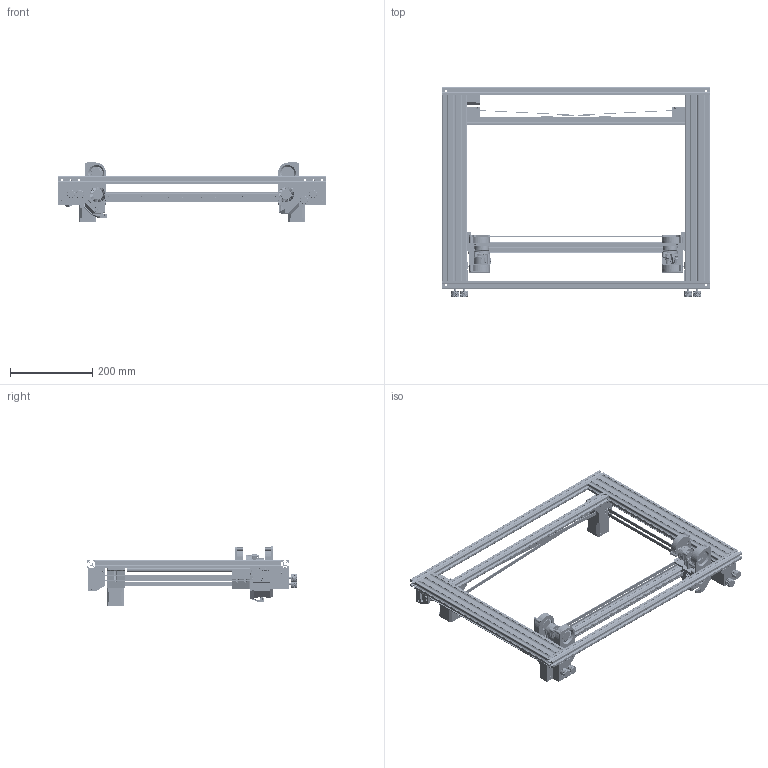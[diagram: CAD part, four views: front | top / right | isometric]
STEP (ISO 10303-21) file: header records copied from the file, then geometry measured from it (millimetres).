
FILE_DESCRIPTION(/* description */ (''),/* implementation_level */ '2;1');
FILE_NAME(/* name */ 'test3-01-00 - XY portal.stp',/* time_stamp */ '2024-03-13T18:01:03+03:00',/* author */ (''),/* organization */ (''),/* preprocessor_version */ 'ST-DEVELOPER v20',/* originating_system */ 'SIEMENS PLM Software NX2312.4001',/* authorisation */ '');
FILE_SCHEMA (('AUTOMOTIVE_DESIGN { 1 0 10303 214 3 1 1 1 }'));
Products named in the file (127): MF3-02 - Minifeeder 3 front; MF3-03 - Minifeeder 3 lever; MF3-01 - Minifeeder 3 back; Fitting; MF2-03 - Minifeeder 2 lever; MF2-02 - Minifeeder 2 front; MF2-01 - Minifeeder 2 back; BMG spring; MF-01 - Minifeeder back; MF-02b - Minifeeder front lite; MF-01b - Minifeeder back lite; MF-03 - Minifeeder lever; MF-02 - Minifeeder front; Screw round M3x12; Screw round M3x10; BMG stift 19mm; BMG motor gear; BMG bearing; BMG small gear; Washer M3; Bearing 623; Bearing F623; V08-01-01-05-02 - LPH nozzle cleaner body; V08-01-01-05-01 - silicone lamella; Screw round M3x8; V08-01-01-04-05(R) - LPH back fan mount; V08-01-01-04-04(R) - LPH volcano front panel; V08-01-01-04-03(R) - LPH volcano dual 5015 fan duct; V07-01-01-04-01(R) - Lite print head mount; LPH tube; V08-01-01-04-08 - LPH volcano front panel logo; Sock volcano; Screw flat M3x18; Threaded insert M3x5; Threaded insert M3x3; V08-01-01-04-05 - LPH back fan mount; V08-01-01-04-04 - LPH volcano front panel; Screw flat M3x16; V08-01-01-04-03 - LPH volcano dual 5015 fan duct; Heatblock + nozzle E3D Volcano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
Assembly tree (316 placements, depth 6):
  V08-01-00 - XY portal
    T2060 L450  x2
    T2020 L650  x2
    T2020 L530
    V08-01-04-00 - Left belt tensioner
      V08-01-04-01 - Left belt tensioner base
      V08-01-04-02-00 - Belt tensioner (roller)
        V08-01-04-02-01 - Belt tensioner (roller) body
        Roller
          Bearing F623  x2
          Bearing 623
          Washer M3
        V05-01-04-02-02 - Belt tensioner knob
        Screw hex M5x50
        Nut M5
        Screw flat M3x20
        V07-01-04-02-03 - Belt tensioner knob cap
      Screw round M4x8  x3
      V08-01-04-04 - Belt tensioner belt clamp
      V08-01-04-05 - Belt tensioner plunger
      Nut M3
      Screw flat M3x35
      V08-01-04-03-00 - Belt tensioner (0.5XY)_MODEL
        V08-01-04-03-01 - Belt tensioner (0.5XY) body
        V08-01-04-03-02 - Belt tensioner (0.5XY) plunger
        V08-01-04-03-03 - Belt tensioner (0.5XY) clamp
        Nut M3
        Screw round M3x30
        Nut M5
        Screw hex M5x50
        V05-01-04-02-02 - Belt tensioner knob
        V07-01-04-02-03 - Belt tensioner knob cap
    V08-01-05-00 - Right belt tensioner
      V08-01-05-01 - Right belt tensioner base
      V08-01-04-02-00 - Belt tensioner (roller)
        V08-01-04-02-01 - Belt tensioner (roller) body
        Roller
          Bearing F623  x2
          Bearing 623
          Washer M3
        V05-01-04-02-02 - Belt tensioner knob
        Screw hex M5x50
        Nut M5
        Screw flat M3x20
        V07-01-04-02-03 - Belt tensioner knob cap
      Screw round M4x8  x3
      Nut M3
      V08-01-04-05 - Belt tensioner plunger
      V08-01-04-04 - Belt tensioner belt clamp
      Screw flat M3x35
      V08-01-04-03-00 - Belt tensioner (0.5XY)_MODEL
        V08-01-04-03-01 - Belt tensioner (0.5XY) body
        V08-01-04-03-02 - Belt tensioner (0.5XY) plunger
        V08-01-04-03-03 - Belt tensioner (0.5XY) clamp
        Nut M3
        Screw round M3x30
        Nut M5
        Screw hex M5x50
        V05-01-04-02-02 - Belt tensioner knob
        V07-01-04-02-03 - Belt tensioner knob cap
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Bounding box: 650 x 509 x 143.57 mm (x, y, z)
Volume: 2145377.8 mm3; surface area: 1704341 mm2
Topology: 1177 solids, 1182 shells, 27403 faces, 70365 edges, 45145 vertices
Faces by surface type: plane 14937, cylinder 6568, cone 2892, bspline 2019, sphere 652, torus 179, extrusion 156
Full cylindrical faces by diameter (mm): 0.4 x3, 1.288 x10, 1.8 x8, 2 x7, 2.2 x24, 2.4 x4, 2.5 x49, 2.6 x4, 2.603 x8, 2.7 x27, 2.8 x6, 2.95 x1, 3 x151, 3.1 x42, 3.2 x123, 3.3 x19, 3.5 x95, 3.6 x28, 3.7 x4, 4 x35, 4.2 x11, 4.3 x18, 4.4 x72, 4.5 x16, 4.7 x72, 5 x43, 5.1 x72, 5.2 x6, 5.3 x6, 5.5 x6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
Entity records: 389302 total; most frequent: CARTESIAN_POINT 139423, ORIENTED_EDGE 50016, DIRECTION 46606, EDGE_CURVE 25008, VERTEX_POINT 16535, AXIS2_PLACEMENT_3D 16412, VECTOR 13782, LINE 13668
